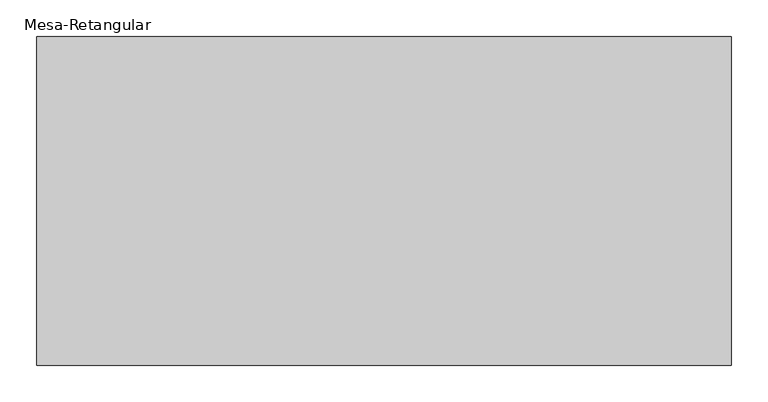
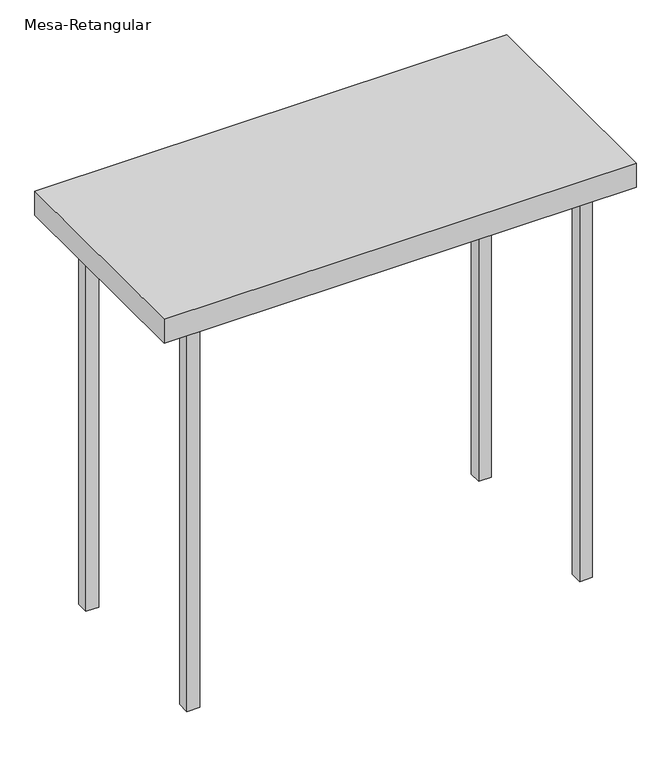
"""IFC4 building model written with IfcOpenShell, lengths in millimetres: furniture geometry, Mesa-Retangular : Mesa aço inox 45x95cm 88AL 3."""

from ifc_helpers import new_model, si_unit, frame, origin, origin_with_axes, place, context, project, spatial, polyline, outline, extrude, source, transform, mapped, element, save


def mesa_retangular_d1e44180(model_context):
    return source(origin(), model_context, "Body", "SweptSolid", [
        extrude(outline(polyline([(-407.8946305, 163.2145104), (-407.8946305, 188.6145104), (-382.4946305, 188.6145104), (-382.4946305, 163.2145104), (-407.8946305, 163.2145104)])), origin_with_axes(), (0.0, 0.0, 1.0), 829.2),
        extrude(outline(polyline([(-407.8946305, -163.2145104), (-382.4946305, -163.2145104), (-382.4946305, -188.6145104), (-407.8946305, -188.6145104), (-407.8946305, -163.2145104)])), origin_with_axes(), (0.0, 0.0, 1.0), 829.2),
        extrude(outline(polyline([(407.8946305, 163.2145104), (382.4946305, 163.2145104), (382.4946305, 188.6145104), (407.8946305, 188.6145104), (407.8946305, 163.2145104)])), origin_with_axes(), (0.0, 0.0, 1.0), 829.2),
        extrude(outline(polyline([(407.8946305, -163.2145104), (407.8946305, -188.6145104), (382.4946305, -188.6145104), (382.4946305, -163.2145104), (407.8946305, -163.2145104)])), origin_with_axes(), (0.0, 0.0, 1.0), 829.2),
        extrude(outline(polyline([(475.0, 225.0), (475.0, -225.0), (-475.0, -225.0), (-475.0, 225.0), (475.0, 225.0)])), frame((0.0, 0.0, 829.2), z_axis=(0.0, 0.0, 1.0), x_axis=(1.0, 0.0, 0.0)), (0.0, 0.0, 1.0), 50.8),
    ])


if __name__ == "__main__":
    model = new_model("IFC4")
    model_context = context("Model", 3, world=origin())
    ifc_project = project(units=[si_unit("LENGTHUNIT", "METRE", prefix="MILLI")], contexts=[model_context])
    site = spatial("IfcSite", under=ifc_project)
    building = spatial("IfcBuilding", under=site)
    placement = place(None, origin())
    mesa_retangular_shape = mesa_retangular_d1e44180(model_context)
    element("IfcFurniture", 1, ObjectType="Mesa-Retangular : Mesa aço inox 45x95cm 88AL 3", at=placement, inside=building, context=model_context, shape_type="MappedRepresentation", body=[
        mapped(mesa_retangular_shape, transform((0.0, 0.0, 0.0), x_axis=(1.0, 0.0, 0.0), y_axis=(0.0, 1.0, 0.0), z_axis=(0.0, 0.0, 1.0))),
    ])
    save(model, "model.ifc")
